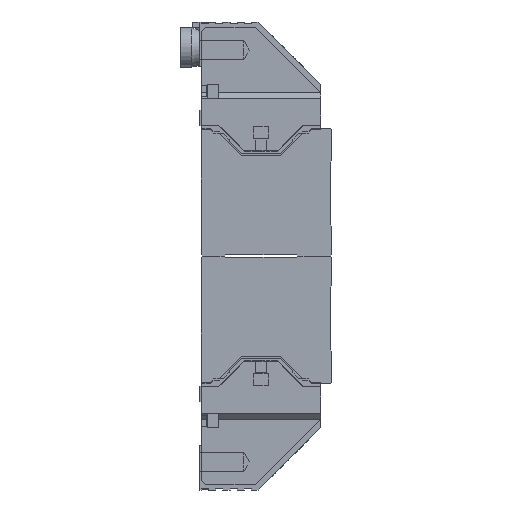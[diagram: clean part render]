
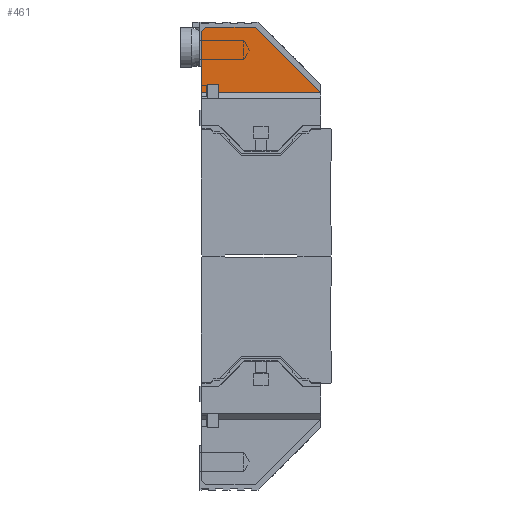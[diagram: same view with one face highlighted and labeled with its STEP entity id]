
A CAD part, left-side view. The second image highlights one B-rep face of the part: STEP entity #461.
In plain terms, the highlighted planar face has unit normal (-1, 0, 0).
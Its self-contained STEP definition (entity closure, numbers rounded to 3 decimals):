
#461 = ADVANCED_FACE( '', ( #1516 ), #1517, .T. );
#1516 = FACE_OUTER_BOUND( '', #3242, .T. );
#1517 = PLANE( '', #3243 );
#3242 = EDGE_LOOP( '', ( #5895, #5896, #5897, #5898, #5899, #5900, #5901, #5902, #5903 ) );
#3243 = AXIS2_PLACEMENT_3D( '', #5904, #5905, #5906 );
#5895 = ORIENTED_EDGE( '', *, *, #9727, .F. );
#5896 = ORIENTED_EDGE( '', *, *, #9736, .T. );
#5897 = ORIENTED_EDGE( '', *, *, #9728, .T. );
#5898 = ORIENTED_EDGE( '', *, *, #9740, .T. );
#5899 = ORIENTED_EDGE( '', *, *, #9741, .F. );
#5900 = ORIENTED_EDGE( '', *, *, #9742, .F. );
#5901 = ORIENTED_EDGE( '', *, *, #9743, .F. );
#5902 = ORIENTED_EDGE( '', *, *, #9744, .F. );
#5903 = ORIENTED_EDGE( '', *, *, #9737, .T. );
#5904 = CARTESIAN_POINT( '', ( -85.5, 30.25, 93. ) );
#5905 = DIRECTION( '', ( -1., 0., 0. ) );
#5906 = DIRECTION( '', ( 0., 0., 1. ) );
#9727 = EDGE_CURVE( '', #11757, #11750, #11759, .T. );
#9728 = EDGE_CURVE( '', #11760, #11761, #11762, .T. );
#9736 = EDGE_CURVE( '', #11757, #11760, #11773, .T. );
#9737 = EDGE_CURVE( '', #11774, #11750, #11775, .T. );
#9740 = EDGE_CURVE( '', #11761, #11536, #11779, .T. );
#9741 = EDGE_CURVE( '', #11780, #11536, #11781, .T. );
#9742 = EDGE_CURVE( '', #11782, #11780, #11783, .T. );
#9743 = EDGE_CURVE( '', #11784, #11782, #11785, .T. );
#9744 = EDGE_CURVE( '', #11774, #11784, #11786, .T. );
#11536 = VERTEX_POINT( '', #14327 );
#11750 = VERTEX_POINT( '', #14653 );
#11757 = VERTEX_POINT( '', #14663 );
#11759 = LINE( '', #14666, #14667 );
#11760 = VERTEX_POINT( '', #14668 );
#11761 = VERTEX_POINT( '', #14669 );
#11762 = LINE( '', #14670, #14671 );
#11773 = LINE( '', #14689, #14690 );
#11774 = VERTEX_POINT( '', #14691 );
#11775 = LINE( '', #14692, #14693 );
#11779 = LINE( '', #14699, #14700 );
#11780 = VERTEX_POINT( '', #14701 );
#11781 = LINE( '', #14702, #14703 );
#11782 = VERTEX_POINT( '', #14704 );
#11783 = LINE( '', #14705, #14706 );
#11784 = VERTEX_POINT( '', #14707 );
#11785 = LINE( '', #14708, #14709 );
#11786 = LINE( '', #14710, #14711 );
#14327 = CARTESIAN_POINT( '', ( -85.5, -19., 35. ) );
#14653 = CARTESIAN_POINT( '', ( -85.5, 21., 35. ) );
#14663 = CARTESIAN_POINT( '', ( -85.5, 21., 38. ) );
#14666 = CARTESIAN_POINT( '', ( -85.5, 21., 93. ) );
#14667 = VECTOR( '', #17971, 1000. );
#14668 = CARTESIAN_POINT( '', ( -85.5, 17., 38. ) );
#14669 = CARTESIAN_POINT( '', ( -85.5, 17., 35. ) );
#14670 = CARTESIAN_POINT( '', ( -85.5, 17., 93. ) );
#14671 = VECTOR( '', #17972, 1000. );
#14689 = CARTESIAN_POINT( '', ( -85.5, 30.25, 38. ) );
#14690 = VECTOR( '', #17980, 1000. );
#14691 = CARTESIAN_POINT( '', ( -85.5, 23., 35. ) );
#14692 = CARTESIAN_POINT( '', ( -85.5, 30.25, 35. ) );
#14693 = VECTOR( '', #17981, 1000. );
#14699 = CARTESIAN_POINT( '', ( -85.5, 30.25, 35. ) );
#14700 = VECTOR( '', #17984, 1000. );
#14701 = CARTESIAN_POINT( '', ( -85.5, 4., 58. ) );
#14702 = CARTESIAN_POINT( '', ( -85.5, 4., 58. ) );
#14703 = VECTOR( '', #17985, 1000. );
#14704 = CARTESIAN_POINT( '', ( -85.5, 21.5, 58. ) );
#14705 = CARTESIAN_POINT( '', ( -85.5, 21.5, 58. ) );
#14706 = VECTOR( '', #17986, 1000. );
#14707 = CARTESIAN_POINT( '', ( -85.5, 23., 56.5 ) );
#14708 = CARTESIAN_POINT( '', ( -85.5, 23., 56.5 ) );
#14709 = VECTOR( '', #17987, 1000. );
#14710 = CARTESIAN_POINT( '', ( -85.5, 23., 23.5 ) );
#14711 = VECTOR( '', #17988, 1000. );
#17971 = DIRECTION( '', ( 0., 0., -1. ) );
#17972 = DIRECTION( '', ( 0., 0., -1. ) );
#17980 = DIRECTION( '', ( 0., -1., 0. ) );
#17981 = DIRECTION( '', ( 0., -1., 0. ) );
#17984 = DIRECTION( '', ( 0., -1., 0. ) );
#17985 = DIRECTION( '', ( 0., -0.707, -0.707 ) );
#17986 = DIRECTION( '', ( 0., -1., 0. ) );
#17987 = DIRECTION( '', ( 0., -0.707, 0.707 ) );
#17988 = DIRECTION( '', ( 0., 0., 1. ) );
